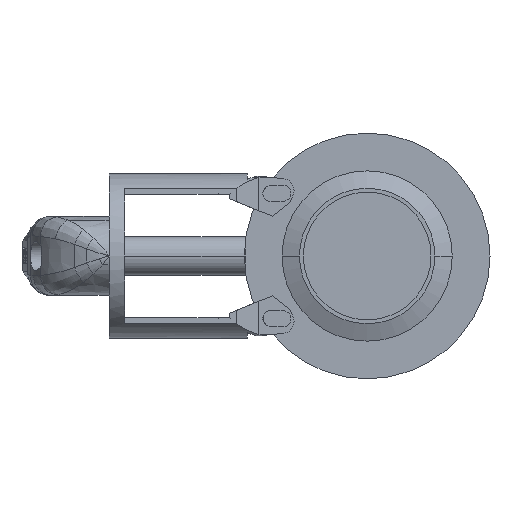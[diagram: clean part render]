
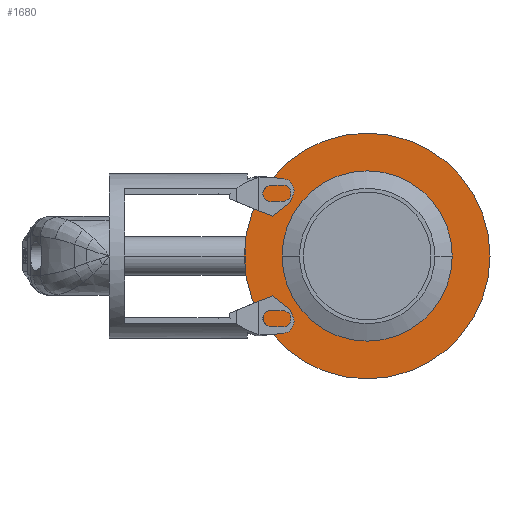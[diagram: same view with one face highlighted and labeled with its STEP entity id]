
A CAD part, left-side view. The second image highlights one B-rep face of the part: STEP entity #1680.
In plain terms, the highlighted planar face has unit normal (-1, 0, 0) as drawn and (1, 0, 0) by its records, which use the part's own axes.
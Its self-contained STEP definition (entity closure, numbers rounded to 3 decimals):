
#540=CARTESIAN_POINT('',(-88.126,108.875,0.));
#550=VERTEX_POINT('',#540);
#1030=CARTESIAN_POINT('',(-88.126,-18.125,
0.));
#1040=VERTEX_POINT('',#1030);
#1070=CARTESIAN_POINT('',(-88.126,45.375,0.));
#1080=DIRECTION('',(1.,0.,-0.));
#1090=DIRECTION('',(0.,1.,0.));
#1100=AXIS2_PLACEMENT_3D('',#1070,#1080,#1090);
#1110=CIRCLE('',#1100,63.5);
#1120=EDGE_CURVE('',#1040,#550,#1110,.T.);
#1430=CARTESIAN_POINT('',(-88.126,92.975,0.));
#1440=DIRECTION('',(1.,0.,0.));
#1450=DIRECTION('',(0.,1.,0.));
#1460=AXIS2_PLACEMENT_3D('',#1430,#1440,#1450);
#1470=PLANE('',#1460);
#1480=CARTESIAN_POINT('',(-88.126,45.375,0.));
#1490=DIRECTION('',(1.,0.,0.));
#1500=DIRECTION('',(0.,1.,0.));
#1510=AXIS2_PLACEMENT_3D('',#1480,#1490,#1500);
#1520=CIRCLE('',#1510,44.);
#1530=CARTESIAN_POINT('',(-88.126,1.375,
0.));
#1540=VERTEX_POINT('',#1530);
#1550=CARTESIAN_POINT('',(-88.126,89.375,0.));
#1560=VERTEX_POINT('',#1550);
#1570=EDGE_CURVE('',#1540,#1560,#1520,.T.);
#1580=ORIENTED_EDGE('',*,*,#1570,.F.);
#1590=EDGE_CURVE('',#1560,#1540,#1520,.T.);
#1600=ORIENTED_EDGE('',*,*,#1590,.F.);
#1610=EDGE_LOOP('',(#1600,#1580));
#1620=FACE_BOUND('',#1610,.T.);
#1630=EDGE_CURVE('',#550,#1040,#1110,.T.);
#1640=ORIENTED_EDGE('',*,*,#1630,.T.);
#1650=ORIENTED_EDGE('',*,*,#1120,.T.);
#1660=EDGE_LOOP('',(#1650,#1640));
#1670=FACE_OUTER_BOUND('',#1660,.T.);
#1680=ADVANCED_FACE('',(#1620,#1670),#1470,.T.);
